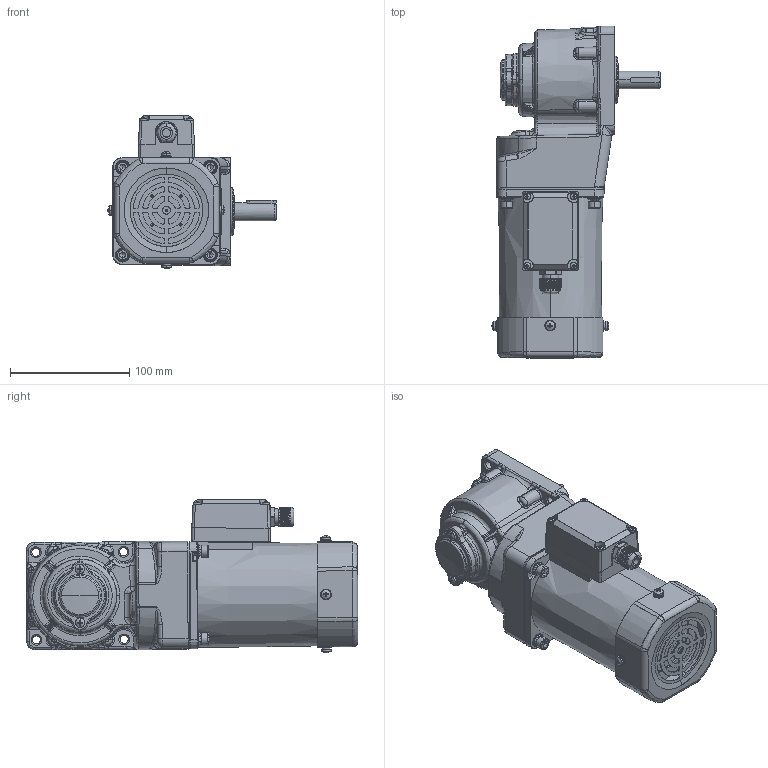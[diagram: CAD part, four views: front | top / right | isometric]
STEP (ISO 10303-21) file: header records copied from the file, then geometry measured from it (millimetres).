
FILE_DESCRIPTION (( 'STEP AP203' ), '1' );
FILE_NAME ('5IK120GU-CFT(5GU3RT-180RT)ÐÂ.STEP', '2023-08-18T06:09:08', ( 'Windows User' ), ( 'P R C' ), 'SwSTEP 2.0', 'SolidWorks 2019', '' );
FILE_SCHEMA (( 'CONFIG_CONTROL_DESIGN' ));
Length unit declared in the file: millimetre
Products named in the file (10): 5IK90GU-CFT(5GU3RT-180RT)^5IK120GU-CFT(5GU3RT-180RT)ÐÂ(2)_5IK120GU-CFT(5GU3RT-180RT)ÐÂ; zd-5gu-50rc-504-001m#________ 2021-12-07 - ____^5IK120GU-CFT(5GU3RT-180RT)ÐÂ(2)_5IK120GU-CFT(5GU3RT-180RT)ÐÂ; cross recessed pan head screws gb_GB_CROSS_SCREWS_TYPE1 M4X6-6  H type-N^5IK120GU-CFT(5GU3RT-180RT)ÐÂ(2)_5IK120GU-CFT(5GU3RT-180RT)ÐÂ; 5IK120GU-CFT(5GU3RT-180RT)陔(2)^5IK120GU-CFT(5GU3RT-180RT)陔; 90RT____________^5IK120GU-CFT(5GU3RT-180RT)陔(2)_5IK120GU-CFT(5GU3RT-180RT)陔; 90____^5IK120GU-CFT(5GU3RT-180RT)陔(2)_5IK120GU-CFT(5GU3RT-180RT)陔; 5IK120GU-CFT(5GU3RT-180RT)陔; 90__________^5IK120GU-CFT(5GU3RT-180RT)陔(2)_5IK120GU-CFT(5GU3RT-180RT)陔; hexagon socket head cap screws gb_GB_FASTENER_SCREWS_HSHCS M5X12-N^5IK120GU-CFT(5GU3RT-180RT)ÐÂ(2)_5IK120GU-CFT(5GU3RT-180RT)ÐÂ; ZD-5GU50RC-505-003______^5IK120GU-CFT(5GU3RT-180RT)陔(2)_5IK120GU-CFT(5GU3RT-180RT)陔
Assembly tree (13 placements, depth 3):
  5IK120GU-CFT(5GU3RT-180RT)陔
    5IK120GU-CFT(5GU3RT-180RT)陔(2)^5IK120GU-CFT(5GU3RT-180RT)陔
      zd-5gu-50rc-504-001m#________ 2021-12-07 - ____^5IK120GU-CFT(5GU3RT-180RT)ÐÂ(2)_5IK120GU-CFT(5GU3RT-180RT)ÐÂ
      90__________^5IK120GU-CFT(5GU3RT-180RT)陔(2)_5IK120GU-CFT(5GU3RT-180RT)陔
      90____^5IK120GU-CFT(5GU3RT-180RT)陔(2)_5IK120GU-CFT(5GU3RT-180RT)陔
      ZD-5GU50RC-505-003______^5IK120GU-CFT(5GU3RT-180RT)陔(2)_5IK120GU-CFT(5GU3RT-180RT)陔
      90RT____________^5IK120GU-CFT(5GU3RT-180RT)陔(2)_5IK120GU-CFT(5GU3RT-180RT)陔
      hexagon socket head cap screws gb_GB_FASTENER_SCREWS_HSHCS M5X12-N^5IK120GU-CFT(5GU3RT-180RT)ÐÂ(2)_5IK120GU-CFT(5GU3RT-180RT)ÐÂ  x4
      cross recessed pan head screws gb_GB_CROSS_SCREWS_TYPE1 M4X6-6  H type-N^5IK120GU-CFT(5GU3RT-180RT)ÐÂ(2)_5IK120GU-CFT(5GU3RT-180RT)ÐÂ  x2
      5IK90GU-CFT(5GU3RT-180RT)^5IK120GU-CFT(5GU3RT-180RT)ÐÂ(2)_5IK120GU-CFT(5GU3RT-180RT)ÐÂ
Bounding box: 141.06 x 278.46 x 128.71 mm (x, y, z)
Volume: 1720285.4 mm3; surface area: 226854.4 mm2
Topology: 49 solids, 50 shells, 2963 faces, 7388 edges, 4458 vertices
Faces by surface type: cylinder 820, plane 792, cone 695, bspline 553, torus 93, sphere 10
Entity records: 117087 total; most frequent: CARTESIAN_POINT 52510, ORIENTED_EDGE 14018, DIRECTION 12426, EDGE_CURVE 7009, AXIS2_PLACEMENT_3D 4955, VERTEX_POINT 4316, EDGE_LOOP 3025, FACE_OUTER_BOUND 2863
